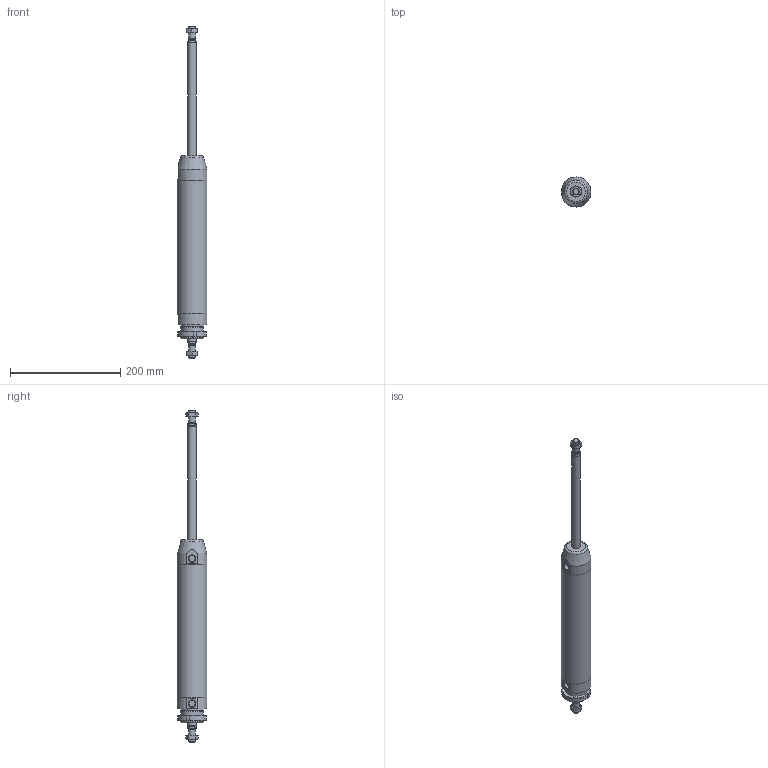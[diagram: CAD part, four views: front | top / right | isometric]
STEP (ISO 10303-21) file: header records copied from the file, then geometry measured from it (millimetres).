
FILE_DESCRIPTION(/* description */ (''),/* implementation_level */ '2;1');
FILE_NAME(/* name */ 'I:\Area Tecnica\Documenti\A-Manieri\_Inventor\12X\12X#T_###_####_#_#\12XCT_050_0200_#_#.stp',/* time_stamp */ '2015-05-13T08:46:19+02:00',/* author */ ('maniean1'),/* organization */ ('Pneumax S.p.A.'),/* preprocessor_version */ 'ST-DEVELOPER v15.2',/* originating_system */ 'Autodesk Inventor 2014',/* authorisation */ '');
FILE_SCHEMA (('AUTOMOTIVE_DESIGN { 1 0 10303 214 3 1 1 }'));
Length unit declared in the file: millimetre
Products named in the file (7): C1250_619-0200; 12X50_604; SP12X50_0200; 12X_50_11; 12X50_613; G12X_050_05; 12XCT_050_0200_#_#
Bounding box: 54 x 54 x 602 mm (x, y, z)
Volume: 429527.1 mm3; surface area: 149852.6 mm2
Topology: 7 solids, 7 shells, 107 faces, 238 edges, 152 vertices
Faces by surface type: plane 54, cylinder 26, cone 26, torus 1
Full cylindrical faces by diameter (mm): 10.2 x2, 11.4 x2, 12 x4, 14 x2, 15.6 x2, 16 x2, 38.2 x1, 40 x3, 50 x2, 54 x3
Entity records: 2546 total; most frequent: CARTESIAN_POINT 474, DIRECTION 433, ORIENTED_EDGE 338, AXIS2_PLACEMENT_3D 187, EDGE_CURVE 169, EDGE_LOOP 150, VERTEX_POINT 129, ADVANCED_FACE 96
